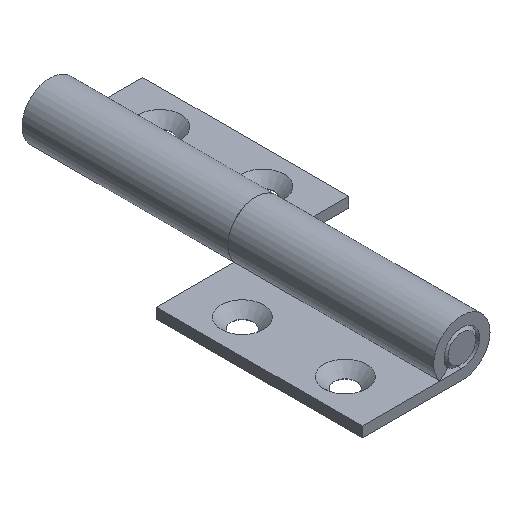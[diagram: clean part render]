
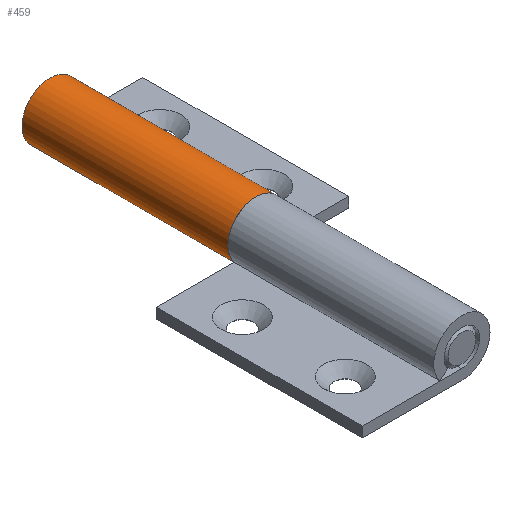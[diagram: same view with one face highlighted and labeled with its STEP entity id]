
A CAD part, isometric view. The second image highlights one B-rep face of the part: STEP entity #459.
In plain terms, the highlighted cylindrical face has radius 8.2 mm (diameter 16.4 mm), a partial arc.
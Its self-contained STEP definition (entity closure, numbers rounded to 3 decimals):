
#47=CYLINDRICAL_SURFACE('',#547,8.2);
#65=CIRCLE('',#538,8.2);
#68=CIRCLE('',#543,8.2);
#157=ORIENTED_EDGE('',*,*,#220,.T.);
#158=ORIENTED_EDGE('',*,*,#210,.F.);
#159=ORIENTED_EDGE('',*,*,#212,.F.);
#160=ORIENTED_EDGE('',*,*,#225,.T.);
#210=EDGE_CURVE('',#256,#254,#288,.T.);
#212=EDGE_CURVE('',#258,#256,#65,.T.);
#220=EDGE_CURVE('',#264,#254,#68,.T.);
#225=EDGE_CURVE('',#258,#264,#297,.T.);
#254=VERTEX_POINT('',#774);
#256=VERTEX_POINT('',#778);
#258=VERTEX_POINT('',#783);
#264=VERTEX_POINT('',#800);
#288=LINE('',#779,#316);
#297=LINE('',#808,#325);
#316=VECTOR('',#646,1000.);
#325=VECTOR('',#675,1000.);
#362=EDGE_LOOP('',(#157,#158,#159,#160));
#410=FACE_BOUND('',#362,.T.);
#459=ADVANCED_FACE('',(#410),#47,.T.);
#538=AXIS2_PLACEMENT_3D('',#784,#650,#651);
#543=AXIS2_PLACEMENT_3D('',#799,#665,#666);
#547=AXIS2_PLACEMENT_3D('',#809,#676,#677);
#646=DIRECTION('',(0.,1.,0.));
#650=DIRECTION('',(0.,-1.,0.));
#651=DIRECTION('',(0.,0.,-1.));
#665=DIRECTION('',(0.,-1.,0.));
#666=DIRECTION('',(0.,0.,-1.));
#675=DIRECTION('',(0.,1.,0.));
#676=DIRECTION('',(0.,1.,0.));
#677=DIRECTION('',(0.,0.,1.));
#774=CARTESIAN_POINT('',(-11.355,60.,3.2));
#778=CARTESIAN_POINT('',(-11.355,0.,3.2));
#779=CARTESIAN_POINT('',(-11.355,0.,3.2));
#783=CARTESIAN_POINT('',(-4.856,0.,0.));
#784=CARTESIAN_POINT('',(-4.856,0.,8.2));
#799=CARTESIAN_POINT('',(-4.856,60.,8.2));
#800=CARTESIAN_POINT('',(-4.856,60.,0.));
#808=CARTESIAN_POINT('',(-4.856,0.,0.));
#809=CARTESIAN_POINT('',(-4.856,0.,8.2));
